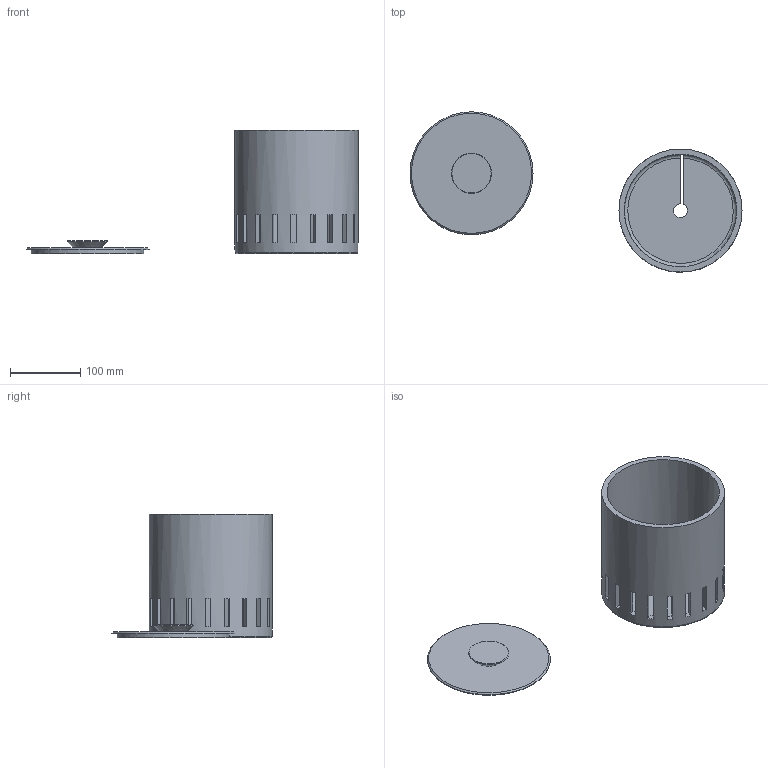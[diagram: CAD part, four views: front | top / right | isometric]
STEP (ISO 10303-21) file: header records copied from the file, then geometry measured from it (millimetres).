
FILE_DESCRIPTION(/* description */ ('STEP AP242 Edition 2','CAx-IF Rec.Pracs.---Representation and Presentation of Product Manufacturing Information (PMI)---4.0---2014-10-13','CAx-IF Rec.Pracs.---3D Tessellated Geometry---0.4---2014-09-14','2;1','CAx-IF Rec.Pracs.---User Defined Attributes---1.5---2016-08-15'),/* implementation_level */ '2;1');
FILE_NAME(/* name */ 'Part Studio 1',/* time_stamp */ '2026-06-09T19:59:04Z',/* author */ (''),/* organization */ (''),/* preprocessor_version */ 'ST-DEVELOPER v20',/* originating_system */ 'ONSHAPE BY PTC INC, 1.216',/* authorisation */ ' ');
FILE_SCHEMA (('AP242_MANAGED_MODEL_BASED_3D_ENGINEERING_MIM_LF { 1 0 10303 442 3 1 4 }'));
Length unit declared in the file: metre
Products named in the file (2): Part 2; Part 1
Bounding box: 472.35 x 228.24 x 175 mm (x, y, z)
Volume: 932724.7 mm3; surface area: 284655.5 mm2
Topology: 2 solids, 2 shells, 98 faces, 278 edges, 184 vertices
Faces by surface type: plane 88, cylinder 5, cone 3, torus 2
Full cylindrical faces by diameter (mm): 159.7 x1, 160 x1, 175 x2
Entity records: 3282 total; most frequent: DIRECTION 564, CARTESIAN_POINT 558, ORIENTED_EDGE 536, EDGE_CURVE 268, AXIS2_PLACEMENT_3D 198, VERTEX_POINT 182, LINE 168, VECTOR 168
